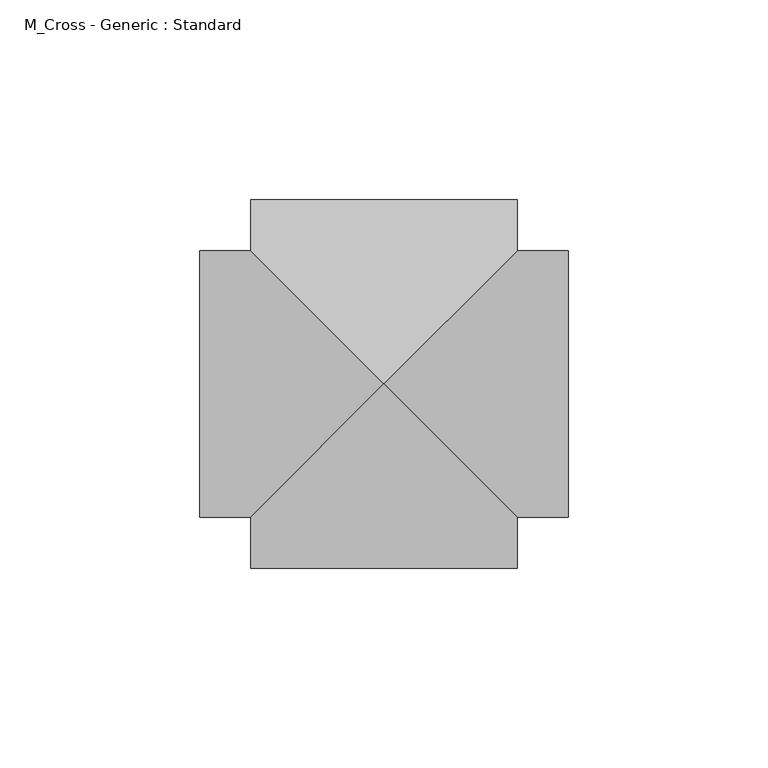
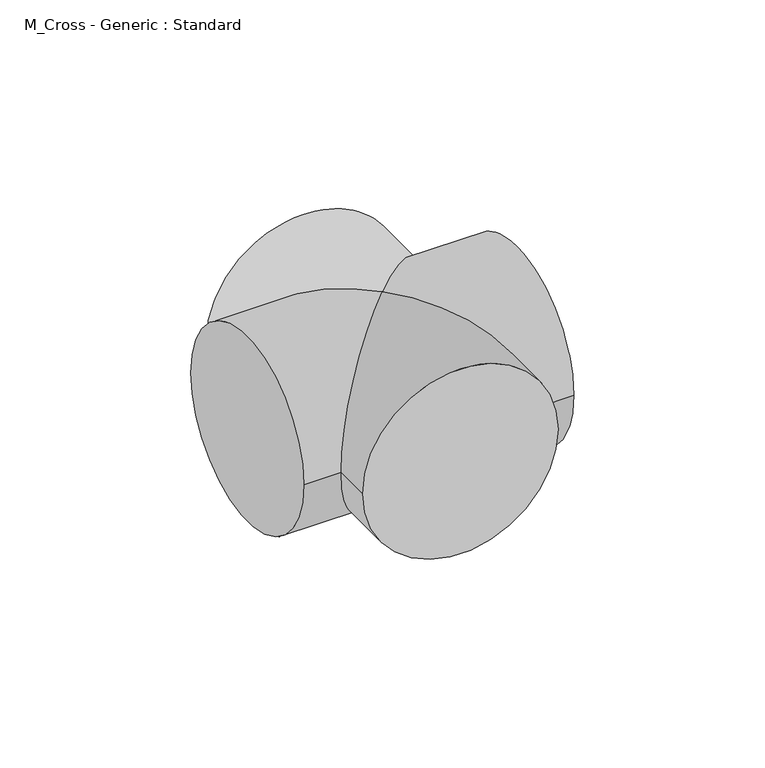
"""IFC4 building model written with IfcOpenShell, lengths in millimetres: pipe fitting geometry, M_Cross - Generic : Standard."""

import ifcopenshell
import ifcopenshell.guid

model = None  # the IFC model being written
_history = None  # IfcOwnerHistory: only IFC2X3 demands one
_inside = {}  # id of a spatial element -> (the spatial element, [elements in it])
_under = {}  # id of a project, library or spatial element -> (it, [spatial elements below it])
_declared = {}  # id of a project -> (the project, [libraries it declares])
_typed = {}  # id of a type object -> (the type object, [elements of that type])
_made_of = {}  # id of a material, layer set ... -> (it, [elements and type objects made of it])


def new_model(schema):
    """Start an empty IFC model of exactly this schema.

    Asked for "IFC4X3", IfcOpenShell would pick the latest addendum, in which some entities
    have other attributes; the version numbers below select the first issue.
    IFC2X3 requires an IfcOwnerHistory on every rooted entity: one is made here for all.
    """
    global model, _history
    if schema == "IFC4X3":
        model = ifcopenshell.file(schema_version=(4, 3, 0, 0))
    else:
        model = ifcopenshell.file(schema=schema)
    _inside.clear()
    _under.clear()
    _declared.clear()
    _typed.clear()
    _made_of.clear()
    _history = None
    if model.schema == "IFC2X3":
        org = make("IfcOrganization", Name="unknown")
        user = make(
            "IfcPersonAndOrganization",
            ThePerson=make("IfcPerson", FamilyName="unknown"),
            TheOrganization=org,
        )
        app = make(
            "IfcApplication",
            ApplicationDeveloper=org,
            Version="unknown",
            ApplicationFullName="unknown",
            ApplicationIdentifier="unknown",
        )
        _history = make(
            "IfcOwnerHistory",
            OwningUser=user,
            OwningApplication=app,
            ChangeAction="ADDED",
            CreationDate=0,
        )
    return model


def make(cls, **values):
    """One entity of the class cls with the attributes given. An attribute that is None is left unset."""
    return model.create_entity(
        cls, **{name: value for name, value in values.items() if value is not None}
    )


def rooted(cls, **values):
    """An entity with a GlobalId (a new one), such as an element, a storey or a relation."""
    return make(cls, GlobalId=ifcopenshell.guid.new(), OwnerHistory=_history, **values)


def si_unit(unit_type, name, prefix=None):
    """IfcSIUnit, for example si_unit("LENGTHUNIT", "METRE", prefix="MILLI")."""
    return make("IfcSIUnit", UnitType=unit_type, Prefix=prefix, Name=name)


def assignment(units):
    """IfcUnitAssignment: the units of a project."""
    return None if units is None else make("IfcUnitAssignment", Units=units)


def point(xyz):
    """IfcCartesianPoint."""
    return None if xyz is None else make("IfcCartesianPoint", Coordinates=xyz)


def direction(xyz):
    """IfcDirection."""
    return None if xyz is None else make("IfcDirection", DirectionRatios=xyz)


def frame(location, z_axis=None, x_axis=None):
    """IfcAxis2Placement3D, a coordinate frame: its origin and axes. An axis left out is left unset."""
    return make(
        "IfcAxis2Placement3D",
        Location=point(location),
        Axis=direction(z_axis),
        RefDirection=direction(x_axis),
    )


def origin():
    """The frame at (0, 0, 0) with its axes left unset."""
    return frame((0.0, 0.0, 0.0))


def place(relative_to, where):
    """IfcLocalPlacement: puts the frame where relative to a parent placement (None: the world)."""
    return make(
        "IfcLocalPlacement", PlacementRelTo=relative_to, RelativePlacement=where
    )


def context(
    kind, dimensions, precision=None, world=None, true_north=None, identifier=None
):
    """IfcGeometricRepresentationContext, for example the 3D "Model" context."""
    return make(
        "IfcGeometricRepresentationContext",
        ContextIdentifier=identifier,
        ContextType=kind,
        CoordinateSpaceDimension=dimensions,
        Precision=precision,
        WorldCoordinateSystem=world,
        TrueNorth=true_north,
    )


def project(units=None, contexts=None):
    """IfcProject with its units and contexts."""
    return rooted(
        "IfcProject",
        Name="project",
        RepresentationContexts=contexts,
        UnitsInContext=assignment(units),
    )


def spatial(cls, under=None, at=None, **own):
    """A site, building, storey or space (cls), placed at a placement, below another one or the project."""
    s = rooted(cls, ObjectPlacement=at, **own)
    if under is not None:
        _under.setdefault(under.id(), (under, []))[1].append(s)
    return s


def circle_curve(where, radius):
    """IfcCircle in the frame where."""
    return make("IfcCircle", Position=where, Radius=radius)


def ellipse_curve(where, semi_axis1, semi_axis2):
    """IfcEllipse in the frame where."""
    return make(
        "IfcEllipse", Position=where, SemiAxis1=semi_axis1, SemiAxis2=semi_axis2
    )


def shape(context_of_items, identifier, shape_type, items):
    """IfcShapeRepresentation: the items that make up one representation, for example the "Body"."""
    return make(
        "IfcShapeRepresentation",
        ContextOfItems=context_of_items,
        RepresentationIdentifier=identifier,
        RepresentationType=shape_type,
        Items=items,
    )


def source(mapping_origin, context_of_items, identifier, shape_type, items):
    """IfcRepresentationMap: a shape defined once, which mapped items show again and again."""
    return make(
        "IfcRepresentationMap",
        MappingOrigin=mapping_origin,
        MappedRepresentation=shape(context_of_items, identifier, shape_type, items),
    )


def transform(
    local_origin,
    x_axis=None,
    y_axis=None,
    z_axis=None,
    scale=None,
    scale2=None,
    scale3=None,
    uniform=True,
):
    """IfcCartesianTransformationOperator3D, or its non-uniform kind. x_axis, y_axis, z_axis: its Axis1, 2, 3."""
    if uniform:
        return make(
            "IfcCartesianTransformationOperator3D",
            Axis1=direction(x_axis),
            Axis2=direction(y_axis),
            LocalOrigin=point(local_origin),
            Scale=scale,
            Axis3=direction(z_axis),
        )
    return make(
        "IfcCartesianTransformationOperator3DnonUniform",
        Axis1=direction(x_axis),
        Axis2=direction(y_axis),
        LocalOrigin=point(local_origin),
        Scale=scale,
        Axis3=direction(z_axis),
        Scale2=scale2,
        Scale3=scale3,
    )


def mapped(mapping_source, mapping_target):
    """IfcMappedItem: shows the shape of a source again, moved by a transform."""
    return make(
        "IfcMappedItem", MappingSource=mapping_source, MappingTarget=mapping_target
    )


def made_of(thing, what):
    """Note that an element or type object is made of a material, layer set ...; save() writes the relation."""
    if what is not None:
        _made_of.setdefault(what.id(), (what, []))[1].append(thing)
    return thing


def element(
    cls,
    number,
    at=None,
    inside=None,
    cuts=None,
    type_object=None,
    material=None,
    context=None,
    identifier="Body",
    shape_type=None,
    held_by="IfcProductDefinitionShape",
    body=None,
    shapes=None,
    **own,
):
    """One element of the class cls, such as IfcWall. Its Tag is "e" and its number.

    at: its placement. inside: the storey or other place that contains it. cuts: it is an
    opening in that element (IfcRelVoidsElement). A single representation is given by context,
    identifier, shape_type and body (its items); several are given by shapes. held_by: the class
    of the entity that holds the representations. save() writes the other relations.
    """
    e = rooted(cls, Tag="e%d" % number, ObjectPlacement=at, **own)
    if body is not None:
        shapes = [shape(context, identifier, shape_type, body)]
    if shapes is not None:
        e.Representation = make(held_by, Representations=shapes)
    if inside is not None:
        _inside.setdefault(inside.id(), (inside, []))[1].append(e)
    if cuts is not None:
        rooted(
            "IfcRelVoidsElement", RelatingBuildingElement=cuts, RelatedOpeningElement=e
        )
    if type_object is not None:
        _typed.setdefault(type_object.id(), (type_object, []))[1].append(e)
    return made_of(e, material)


def aggregate(whole, parts):
    """IfcRelAggregates: a whole, such as a stair, and the parts it consists of."""
    return rooted("IfcRelAggregates", RelatingObject=whole, RelatedObjects=parts)


def save(model, path):
    """Write the relations noted so far, then the file.

    IfcRelAggregates (storeys below a building ...), IfcRelContainedInSpatialStructure (elements
    in a storey), IfcRelDefinesByType, IfcRelAssociatesMaterial and IfcRelDeclares: one each for
    every whole, place, type object, material and project.
    """
    for whole, parts in _under.values():
        aggregate(whole, parts)
    for where, things in _inside.values():
        rooted(
            "IfcRelContainedInSpatialStructure",
            RelatedElements=things,
            RelatingStructure=where,
        )
    for kind, things in _typed.values():
        rooted("IfcRelDefinesByType", RelatedObjects=things, RelatingType=kind)
    for what, things in _made_of.values():
        rooted("IfcRelAssociatesMaterial", RelatedObjects=things, RelatingMaterial=what)
    for by, libraries in _declared.values():
        rooted("IfcRelDeclares", RelatingContext=by, RelatedDefinitions=libraries)
    model.write(path)


def plane_surface(at):
    """IfcPlane: the flat surface through the origin of the frame at, square to its z axis."""
    return make("IfcPlane", Position=at)


def cylinder_surface(at, radius):
    """IfcCylindricalSurface: all points at the distance radius from the z axis of the frame at."""
    return make("IfcCylindricalSurface", Position=at, Radius=radius)


def advanced_brep(points, edges, surfaces, faces):
    """IfcAdvancedBrep: a solid bounded by faces that lie on surfaces and meet in shared edges.

    An edge is (start, end): straight between two places in points (the first is 0);
    or (start, end, curve); or (start, end, curve, False) where it runs against its curve.
    A face is (place in surfaces, loops), or (place, loops, False) where it looks against
    its surface's normal. A loop lists edges by number (the first is 1), with a minus sign
    where the edge is run from its end to its start. The first loop is the outer one.
    """
    corners = [point(p) for p in points]
    vertices = [make("IfcVertexPoint", VertexGeometry=c) for c in corners]
    made = []
    for start, end, *more in edges:
        made.append(
            make(
                "IfcEdgeCurve",
                EdgeStart=vertices[start],
                EdgeEnd=vertices[end],
                EdgeGeometry=more[0] if more else make("IfcPolyline", Points=[corners[start], corners[end]]),
                SameSense=more[1] if len(more) > 1 else True,
            )
        )
    hull = []
    for where, loops, *sense in faces:
        bounds = []
        for j, loop in enumerate(loops):
            ring = [make("IfcOrientedEdge", EdgeElement=made[abs(k) - 1], Orientation=k > 0) for k in loop]
            bounds.append(
                make(
                    "IfcFaceOuterBound" if j == 0 else "IfcFaceBound",
                    Bound=make("IfcEdgeLoop", EdgeList=ring),
                    Orientation=True,
                )
            )
        hull.append(make("IfcAdvancedFace", Bounds=bounds, FaceSurface=surfaces[where], SameSense=sense[0] if sense else True))
    return make("IfcAdvancedBrep", Outer=make("IfcClosedShell", CfsFaces=hull))


def m_cross_generic_standard_eee3fceb(model_context):
    return source(origin(), model_context, "Body", "AdvancedBrep", [
        advanced_brep(
        [(-33.3375, -46.0375, 0.0), (33.3375, -46.0375, 0.0), (33.3375, -33.3375, 0.0), (0.0, 0.0, 33.3375), (-33.3375, -33.3375, 0.0), (0.0, 0.0, -33.3375), (33.3375, 46.0375, 0.0), (-33.3375, 46.0375, 0.0), (-33.3375, 33.3375, 0.0), (33.3375, 33.3375, 0.0), (-46.0375, -33.3375, 0.0), (-46.0375, 33.3375, 0.0), (46.0375, -33.3375, 0.0), (46.0375, 33.3375, 0.0)],
        [
            (0, 1, circle_curve(frame((0.0, -46.0375, 0.0), z_axis=(0.0, -1.0, 0.0), x_axis=(1.0, 0.0, 0.0)), 33.3375)),
            (1, 0, circle_curve(frame((0.0, -46.0375, 0.0), z_axis=(0.0, -1.0, 0.0), x_axis=(1.0, 0.0, 0.0)), 33.3375)),
            (1, 2),
            (2, 3, ellipse_curve(frame((0.0, 0.0, 0.0), z_axis=(-0.7071067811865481, -0.7071067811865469, 0.0), x_axis=(-0.7071067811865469, 0.7071067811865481, 0.0)), 47.1463446, 33.3375)),
            (3, 4, ellipse_curve(frame((0.0, 0.0, 0.0), z_axis=(0.707106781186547, -0.7071067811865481, 0.0), x_axis=(0.7071067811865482, 0.7071067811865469, 0.0)), 47.1463446, 33.3375)),
            (4, 0),
            (4, 5, ellipse_curve(frame((0.0, 0.0, 0.0), z_axis=(0.707106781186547, -0.7071067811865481, 0.0), x_axis=(0.7071067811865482, 0.7071067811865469, 0.0)), 47.1463446, 33.3375)),
            (5, 2, ellipse_curve(frame((0.0, 0.0, 0.0), z_axis=(-0.7071067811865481, -0.7071067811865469, 0.0), x_axis=(-0.7071067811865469, 0.7071067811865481, 0.0)), 47.1463446, 33.3375)),
            (6, 7, circle_curve(frame((0.0, 46.0375, 0.0), z_axis=(0.0, 1.0, 0.0), x_axis=(-1.0, 0.0, 0.0)), 33.3375)),
            (7, 6, circle_curve(frame((0.0, 46.0375, 0.0), z_axis=(0.0, 1.0, 0.0), x_axis=(-1.0, 0.0, 0.0)), 33.3375)),
            (7, 8),
            (8, 3, ellipse_curve(frame((0.0, 0.0, 0.0), z_axis=(0.7071067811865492, 0.7071067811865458, 0.0), x_axis=(0.7071067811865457, -0.7071067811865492, 0.0)), 47.1463446, 33.3375)),
            (3, 9, ellipse_curve(frame((0.0, 0.0, 0.0), z_axis=(-0.7071067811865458, 0.7071067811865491, 0.0), x_axis=(-0.7071067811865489, -0.707106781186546, 0.0)), 47.1463446, 33.3375)),
            (9, 6),
            (9, 5, ellipse_curve(frame((0.0, 0.0, 0.0), z_axis=(-0.7071067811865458, 0.7071067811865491, 0.0), x_axis=(-0.7071067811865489, -0.707106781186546, 0.0)), 47.1463446, 33.3375)),
            (5, 8, ellipse_curve(frame((0.0, 0.0, 0.0), z_axis=(0.7071067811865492, 0.7071067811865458, 0.0), x_axis=(0.7071067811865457, -0.7071067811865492, 0.0)), 47.1463446, 33.3375)),
            (10, 11, circle_curve(frame((-46.0375, 0.0, 0.0), z_axis=(-1.0, 0.0, 0.0), x_axis=(0.0, 1.0, 0.0)), 33.3375)),
            (11, 10, circle_curve(frame((-46.0375, 0.0, 0.0), z_axis=(-1.0, 0.0, 0.0), x_axis=(0.0, 1.0, 0.0)), 33.3375)),
            (12, 13, circle_curve(frame((46.0375, 0.0, 0.0), z_axis=(1.0, 0.0, 0.0), x_axis=(0.0, 1.0, 0.0)), 33.3375)),
            (13, 12, circle_curve(frame((46.0375, 0.0, 0.0), z_axis=(1.0, 0.0, 0.0), x_axis=(0.0, 1.0, 0.0)), 33.3375)),
            (10, 4),
            (8, 11),
            (13, 9),
            (2, 12),
        ],
        [
            plane_surface(frame((0.0, -46.0375, 0.0), z_axis=(0.0, -1.0, 0.0), x_axis=(0.0, 0.0, 1.0))),
            cylinder_surface(frame((0.0, 0.0, 0.0), z_axis=(0.0, 1.0, 0.0), x_axis=(1.0, 0.0, 0.0)), 33.3375),
            plane_surface(frame((0.0, 46.0375, 0.0), z_axis=(0.0, 1.0, 0.0), x_axis=(0.0, 0.0, 1.0))),
            cylinder_surface(frame((0.0, 0.0, 0.0), z_axis=(0.0, -1.0, 0.0), x_axis=(-1.0, 0.0, 0.0)), 33.3375),
            plane_surface(frame((-46.0375, 0.0, 0.0), z_axis=(-1.0, 0.0, 0.0), x_axis=(0.0, 0.0, 1.0))),
            plane_surface(frame((46.0375, 0.0, 0.0), z_axis=(1.0, 0.0, 0.0), x_axis=(0.0, 0.0, 1.0))),
            cylinder_surface(frame((-46.0375, 0.0, 0.0), z_axis=(-1.0, 0.0, 0.0), x_axis=(0.0, 1.0, 0.0)), 33.3375),
        ],
        [
            (0, [[1, 2]]),
            (1, [[-2, 3, 4, 5, 6]]),
            (1, [[-1, -6, 7, 8, -3]]),
            (2, [[9, 10]]),
            (3, [[-10, 11, 12, 13, 14]]),
            (3, [[-9, -14, 15, 16, -11]]),
            (4, [[17, 18]]),
            (5, [[19, 20]]),
            (6, [[-17, 21, -5, -12, 22]]),
            (6, [[-20, 23, -13, -4, 24]]),
            (6, [[-18, -22, -16, -7, -21]]),
            (6, [[-19, -24, -8, -15, -23]]),
        ],
    ),
    ])


if __name__ == "__main__":
    model = new_model("IFC4")
    model_context = context("Model", 3, world=origin())
    ifc_project = project(units=[si_unit("LENGTHUNIT", "METRE", prefix="MILLI")], contexts=[model_context])
    site = spatial("IfcSite", under=ifc_project)
    building = spatial("IfcBuilding", under=site)
    placement = place(None, origin())
    m_cross_generic_standard_shape = m_cross_generic_standard_eee3fceb(model_context)
    element("IfcPipeFitting", 1, ObjectType="M_Cross - Generic : Standard", at=placement, inside=building, context=model_context, shape_type="MappedRepresentation", body=[
        mapped(m_cross_generic_standard_shape, transform((0.0, 0.0, 0.0), x_axis=(1.0, 0.0, 0.0), y_axis=(0.0, 1.0, 0.0), z_axis=(0.0, 0.0, 1.0))),
    ])
    save(model, "model.ifc")
